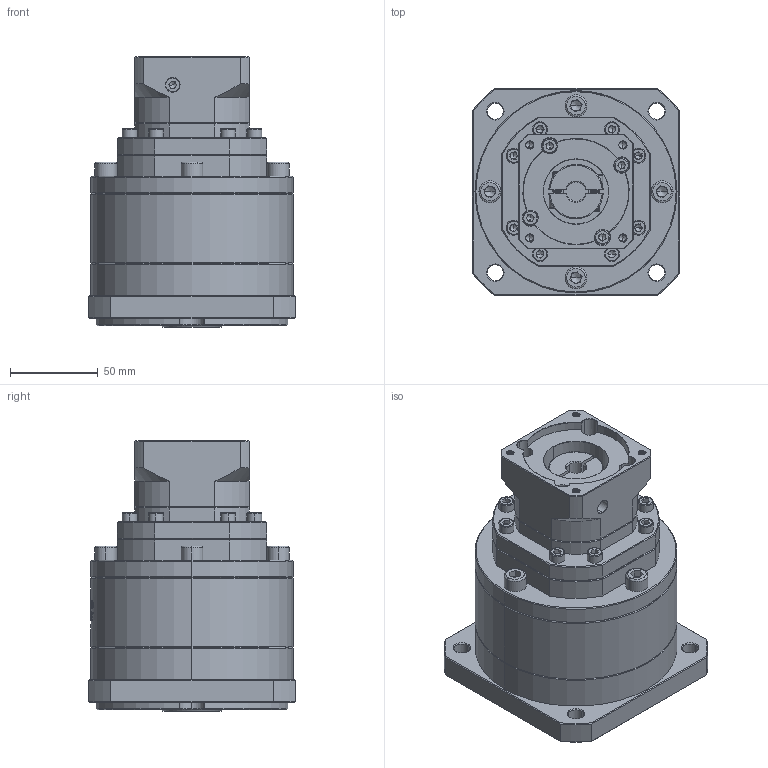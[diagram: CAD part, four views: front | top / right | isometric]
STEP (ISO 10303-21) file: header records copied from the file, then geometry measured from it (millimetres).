
FILE_DESCRIPTION (( 'STEP AP214' ), '1' );
FILE_NAME ('ZF120A-K25-L3-P2-11-60-75-M5.step', '2023-08-27T06:32:27', ( '' ), ( '' ), 'SwSTEP 2.0', 'SolidWorks 2016', '' );
FILE_SCHEMA (( 'AUTOMOTIVE_DESIGN' ));
Length unit declared in the file: millimetre
Products named in the file (1): ZF120A-K25-L3-P2-11-60-75-M5
Bounding box: 118 x 118 x 154 mm (x, y, z)
Volume: 1162422 mm3; surface area: 114494.8 mm2
Topology: 7 solids, 7 shells, 2310 faces, 6165 edges, 3961 vertices
Faces by surface type: plane 1172, bspline 426, cylinder 393, cone 297, torus 22
Entity records: 120648 total; most frequent: CARTESIAN_POINT 42822, ORIENTED_EDGE 12226, DIRECTION 9103, EDGE_CURVE 6113, VERTEX_POINT 3961, LINE 3285, VECTOR 3285, AXIS2_PLACEMENT_3D 2909
